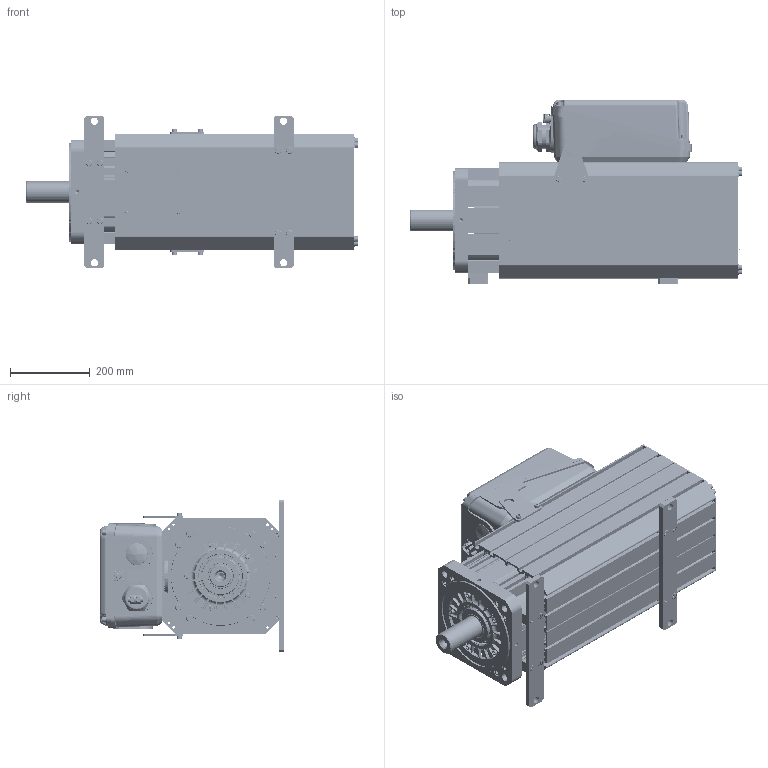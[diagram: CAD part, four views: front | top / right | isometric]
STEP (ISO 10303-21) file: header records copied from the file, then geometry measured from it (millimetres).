
FILE_DESCRIPTION((''),'2;1');
FILE_NAME('50266N-1_SW0001','2016-06-15T',('zhuanghaohui'),(''),'PRO/ENGINEER BY PARAMETRIC TECHNOLOGY CORPORATION, 2010430','PRO/ENGINEER BY PARAMETRIC TECHNOLOGY CORPORATION, 2010430','');
FILE_SCHEMA(('CONFIG_CONTROL_DESIGN'));
Products named in the file (1): 50266N-1_SW0001
Bounding box: 835.12 x 463.52 x 384.1 mm (x, y, z)
Surface area: 5037962.1 mm2 (no closed solid volume)
Topology: 0 solids, 354 shells, 3899 faces, 14626 edges, 10910 vertices
Faces by surface type: plane 1828, cylinder 990, cone 405, bspline 391, torus 253, sphere 31, extrusion 1
Entity records: 268963 total; most frequent: CARTESIAN_POINT 150865, DIRECTION 23783, ORIENTED_EDGE 21922, EDGE_CURVE 14614, VERTEX_POINT 10910, AXIS2_PLACEMENT_3D 8005, VECTOR 7773, LINE 7772
